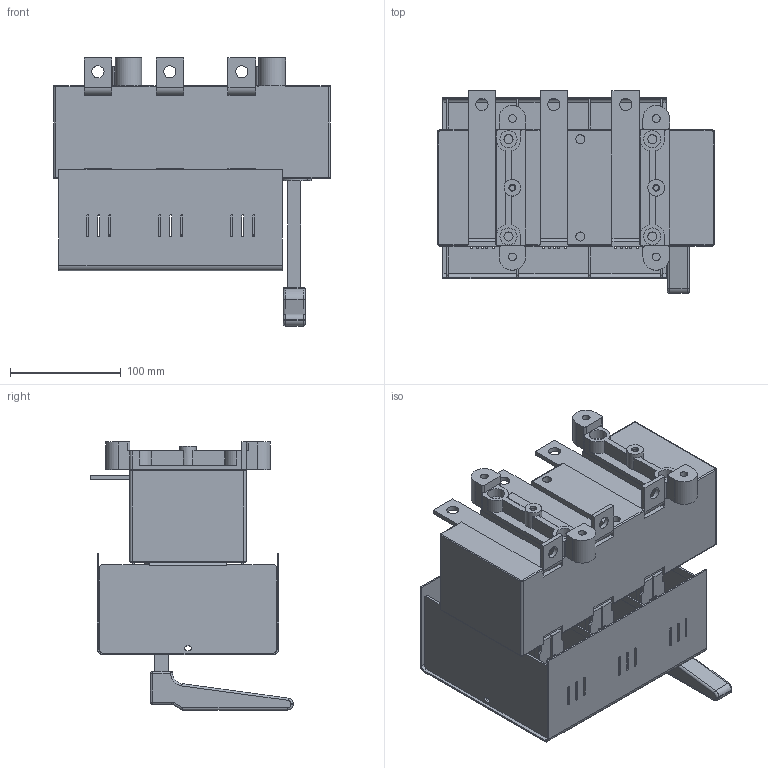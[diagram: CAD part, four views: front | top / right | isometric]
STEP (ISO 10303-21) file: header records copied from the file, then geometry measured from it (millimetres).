
FILE_DESCRIPTION(/* description */ (''),/* implementation_level */ '2;1');
FILE_NAME(/* name */ 'RAB 1 P3 A-R.stp',/* time_stamp */ '2021-08-19T12:38:38+02:00',/* author */ (''),/* organization */ (''),/* preprocessor_version */ 'ST-DEVELOPER v18.1',/* originating_system */ 'SIEMENS PLM Software NX 1965',/* authorisation */ '');
FILE_SCHEMA (('AUTOMOTIVE_DESIGN { 1 0 10303 214 3 1 1 1 }'));
Length unit declared in the file: millimetre
Products named in the file (1): RAB 1 P3 A-R_stp
Bounding box: 250 x 182.79 x 242.3 mm (x, y, z)
Volume: 2449968.3 mm3; surface area: 456048.1 mm2
Topology: 1 solids, 7 shells, 1224 faces, 3305 edges, 2126 vertices
Faces by surface type: plane 792, cylinder 410, torus 13, sphere 6, bspline 3
Full cylindrical faces by diameter (mm): 2.5 x4, 4.8 x2, 5.2 x18, 6.2 x2, 7 x4, 8.2 x6, 11 x6, 14 x4, 15 x2, 15.5 x4
Entity records: 38264 total; most frequent: CARTESIAN_POINT 6795, DIRECTION 6525, ORIENTED_EDGE 6486, EDGE_CURVE 3243, LINE 2377, VECTOR 2377, VERTEX_POINT 2122, AXIS2_PLACEMENT_3D 2074
